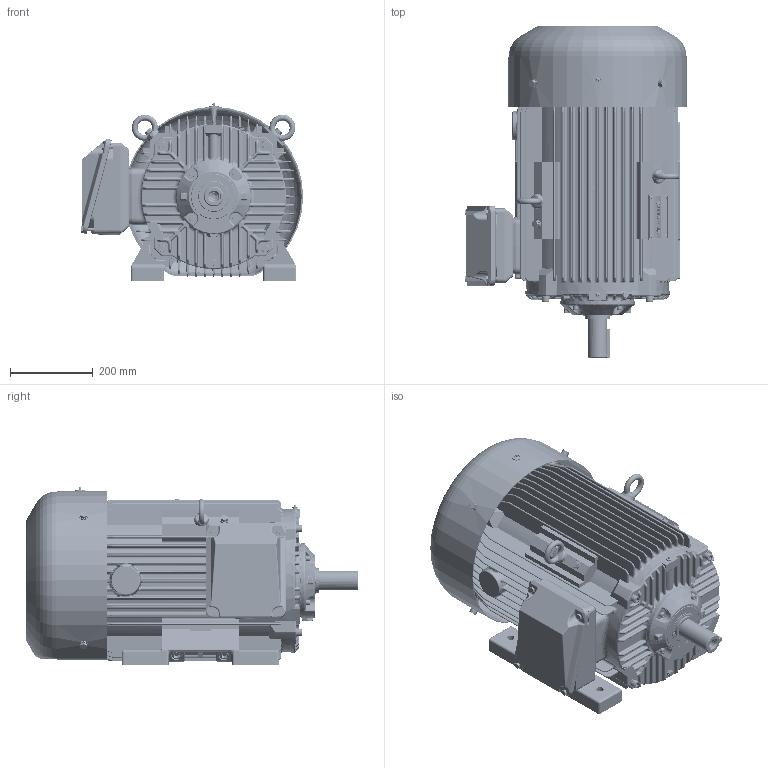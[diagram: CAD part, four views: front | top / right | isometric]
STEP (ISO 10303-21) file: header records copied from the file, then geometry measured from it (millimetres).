
FILE_DESCRIPTION(/* description */ ('Unknown','CAx-IF Rec.Pracs.---Representation and Presentation of Product Manufacturing Information (PMI)---4.0---2014-10-13','CAx-IF Rec.Pracs.---3D Tessellated Geometry---0.4---2014-09-14','2;1'),/* implementation_level */ '2;1');
FILE_NAME(/* name */ 'Silnik SIE324TS2, SIE326TS2 - do klienta',/* time_stamp */ '2024-07-08T08:30:00+02:00',/* author */ ('Unknown'),/* organization */ ('Unknown'),/* preprocessor_version */ 'ST-DEVELOPER v16.7',/* originating_system */ 'DEX',/* authorisation */ $);
FILE_SCHEMA (('TECHNICAL_DATA_PACKAGING','AP242_MANAGED_MODEL_BASED_3D_ENGINEERING_MIM_LF { 1 0 10303 442 20130219 1 4 }'));
Products named in the file (1): Silnik SIE324TS2, SIE326TS2 - do klienta
Bounding box: 537.53 x 802.3 x 428.11 mm (x, y, z)
Volume: 14697502.3 mm3; surface area: 3858019.1 mm2
Topology: 2 solids, 42 shells, 9054 faces, 23162 edges, 14170 vertices
Faces by surface type: plane 4075, cylinder 2402, bspline 1475, torus 749, cone 234, sphere 119
Full cylindrical faces by diameter (mm): 1.6 x3, 2.5 x4, 3 x8, 3.4 x4, 4.917 x2, 5 x4, 6 x1, 6.4 x2, 6.647 x10, 7.137 x1, 8 x13, 8.376 x2, 8.4 x1, 8.5 x1, 9 x9, 9.853 x8, 9.999 x1, 10 x15, 10.106 x9, 10.5 x5, 11.63 x5, 12 x16, 13 x6, 13.546 x4, 13.835 x8, 14 x10, 14.63 x5, 16 x9, 17.294 x1, 17.5 x6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
Entity records: 311822 total; most frequent: CARTESIAN_POINT 104989, ORIENTED_EDGE 44818, DIRECTION 38957, EDGE_CURVE 22409, VERTEX_POINT 13933, AXIS2_PLACEMENT_3D 13289, LINE 12379, VECTOR 12379
